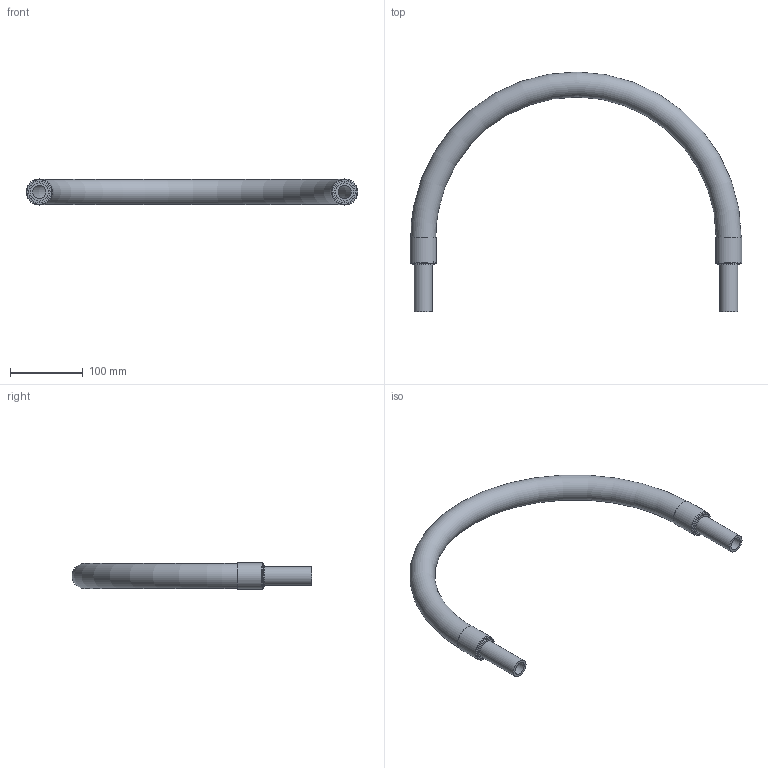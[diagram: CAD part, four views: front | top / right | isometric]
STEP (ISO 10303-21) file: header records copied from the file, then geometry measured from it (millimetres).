
FILE_DESCRIPTION( ( 'STEP AP214' ), '1' );
FILE_NAME( ' ', ' ', ( ' ' ), ( ' ' ), 'PSStep 11.0', 'VISI 17.0', ' ' );
FILE_SCHEMA( ( 'AUTOMOTIVE_DESIGN { 1 0 10303 214 1 1 1 1 }' ) );
Length unit declared in the file: millimetre
Products named in the file (3): 1; 2; 3
Bounding box: 457 x 330.74 x 36 mm (x, y, z)
Volume: 205291 mm3; surface area: 170617.3 mm2
Topology: 3 solids, 3 shells, 32 faces, 57 edges, 39 vertices
Faces by surface type: plane 14, cylinder 12, torus 6
Full cylindrical faces by diameter (mm): 18 x2, 25 x2, 29.5 x1, 30 x2, 34.5 x1, 35 x2, 36 x2
Entity records: 959 total; most frequent: DIRECTION 134, CARTESIAN_POINT 99, AXIS2_PLACEMENT_3D 67, EDGE_LOOP 64, ORIENTED_EDGE 64, FACE_OUTER_BOUND 50, STYLED_ITEM 32, PRESENTATION_STYLE_ASSIGNMENT 32
